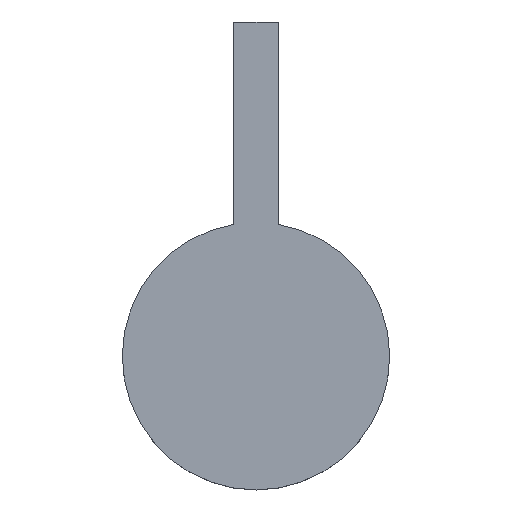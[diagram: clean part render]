
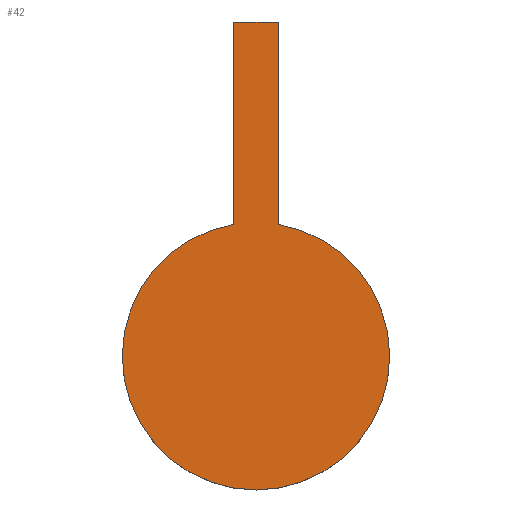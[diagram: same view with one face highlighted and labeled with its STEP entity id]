
A CAD part, top view. The second image highlights one B-rep face of the part: STEP entity #42.
In plain terms, the highlighted planar face has unit normal (0, 0, 1).
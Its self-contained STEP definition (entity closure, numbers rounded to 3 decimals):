
#42 = ADVANCED_FACE( '', ( #93 ), #94, .T. );
#93 = FACE_OUTER_BOUND( '', #152, .T. );
#94 = PLANE( '', #153 );
#152 = EDGE_LOOP( '', ( #210, #211, #212, #213 ) );
#153 = AXIS2_PLACEMENT_3D( '', #214, #215, #216 );
#210 = ORIENTED_EDGE( '', *, *, #339, .F. );
#211 = ORIENTED_EDGE( '', *, *, #340, .F. );
#212 = ORIENTED_EDGE( '', *, *, #341, .F. );
#213 = ORIENTED_EDGE( '', *, *, #342, .T. );
#214 = CARTESIAN_POINT( '', ( -150., -150., 0. ) );
#215 = DIRECTION( '', ( 0., 0., 1. ) );
#216 = DIRECTION( '', ( 0., -1., 0. ) );
#339 = EDGE_CURVE( '', #394, #395, #396, .T. );
#340 = EDGE_CURVE( '', #397, #394, #398, .T. );
#341 = EDGE_CURVE( '', #399, #397, #400, .T. );
#342 = EDGE_CURVE( '', #399, #395, #401, .T. );
#394 = VERTEX_POINT( '', #470 );
#395 = VERTEX_POINT( '', #471 );
#396 = LINE( '', #472, #473 );
#397 = VERTEX_POINT( '', #474 );
#398 = CIRCLE( '', #475, 60. );
#399 = VERTEX_POINT( '', #476 );
#400 = LINE( '', #477, #478 );
#401 = LINE( '', #479, #480 );
#470 = CARTESIAN_POINT( '', ( -10., 59.161, 0. ) );
#471 = CARTESIAN_POINT( '', ( -10., 150., 0. ) );
#472 = CARTESIAN_POINT( '', ( -10., 0., 0. ) );
#473 = VECTOR( '', #567, 1000. );
#474 = CARTESIAN_POINT( '', ( 10., 59.161, 0. ) );
#475 = AXIS2_PLACEMENT_3D( '', #568, #569, #570 );
#476 = CARTESIAN_POINT( '', ( 10., 150., 0. ) );
#477 = CARTESIAN_POINT( '', ( 10., 150., 0. ) );
#478 = VECTOR( '', #571, 1000. );
#479 = CARTESIAN_POINT( '', ( 150., 150., 0. ) );
#480 = VECTOR( '', #572, 1000. );
#567 = DIRECTION( '', ( 0., 1., 0. ) );
#568 = CARTESIAN_POINT( '', ( 0., 0., 0. ) );
#569 = DIRECTION( '', ( 0., 0., -1. ) );
#570 = DIRECTION( '', ( -1., 0., 0. ) );
#571 = DIRECTION( '', ( 0., -1., 0. ) );
#572 = DIRECTION( '', ( -1., 0., 0. ) );
